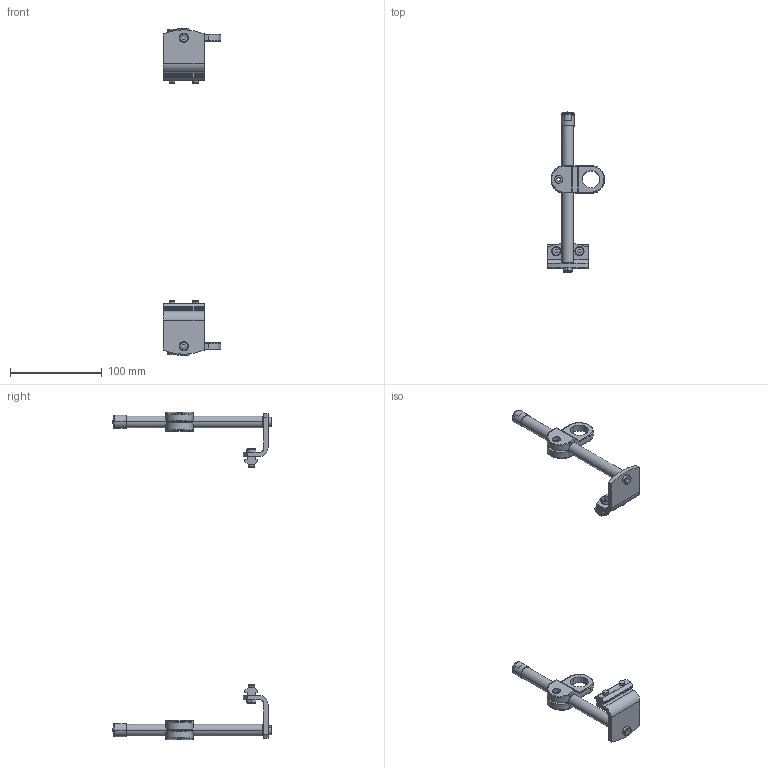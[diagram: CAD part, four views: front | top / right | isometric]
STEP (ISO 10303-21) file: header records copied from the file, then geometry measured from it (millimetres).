
FILE_DESCRIPTION((''),'2;1');
FILE_NAME('75M-PM-4_ASM','2017-07-17T',('jenni.wallner'),(''),'PRO/ENGINEER BY PARAMETRIC TECHNOLOGY CORPORATION, 2012420','PRO/ENGINEER BY PARAMETRIC TECHNOLOGY CORPORATION, 2012420','');
FILE_SCHEMA(('CONFIG_CONTROL_DESIGN'));
Length unit declared in the file: inch
Products named in the file (10): DNR-75M-PM-4-10_STEP_807-1391_1; DNR-75M-PM-4-10_STEP_807-948_1; DNR-75M-PM-4-10_STEP_920693M_1; DNR-75M-PM-4-10_STEP_920692M_1; DNR-75M-PM-4-10_STEP_200830M_1; DNR-75M-PM-4-10_STEP_202027M_27; DNR-75M-PM-4-10_STEP_202004_1; DNR-75M-PM-4-10_STEP_ASM_1_ASM; 75M-PM-4_ASM_1_ASM; 75M-PM-4_ASM
Assembly tree (18 placements, depth 4):
  75M-PM-4_ASM
    75M-PM-4_ASM_1_ASM
      DNR-75M-PM-4-10_STEP_ASM_1_ASM
        DNR-75M-PM-4-10_STEP_807-1391_1  x2
        DNR-75M-PM-4-10_STEP_807-948_1  x2
        DNR-75M-PM-4-10_STEP_920693M_1  x4
        DNR-75M-PM-4-10_STEP_920692M_1  x2
        DNR-75M-PM-4-10_STEP_200830M_1  x2
        DNR-75M-PM-4-10_STEP_202027M_27  x2
        DNR-75M-PM-4-10_STEP_202004_1  x2
Bounding box: 62.3 x 173.88 x 356.99 mm (x, y, z)
Volume: 103103.7 mm3; surface area: 51765.9 mm2
Topology: 16 solids, 16 shells, 380 faces, 894 edges, 560 vertices
Faces by surface type: cylinder 152, plane 150, cone 42, bspline 24, torus 12
Entity records: 6131 total; most frequent: CARTESIAN_POINT 1783, DIRECTION 929, ORIENTED_EDGE 810, EDGE_CURVE 405, AXIS2_PLACEMENT_3D 359, VERTEX_POINT 256, VECTOR 211, LINE 211
